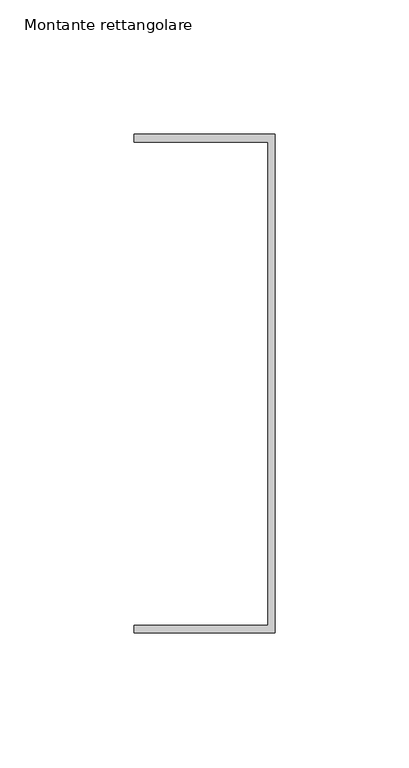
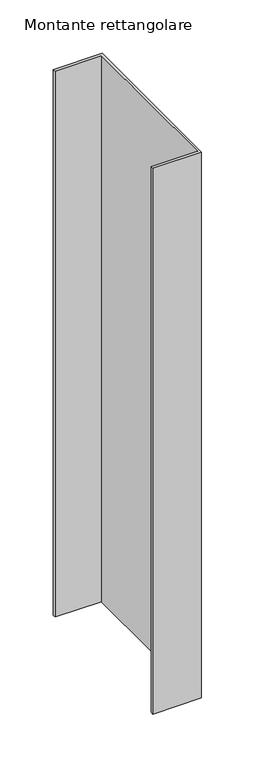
"""IFC4 building model written with IfcOpenShell, lengths in millimetres: member geometry, Montante rettangolare : Verde Profilo's RaceWaterDrainFloor."""

from ifc_helpers import new_model, si_unit, frame, origin, place, context, project, spatial, polyline, outline, extrude, source, transform, mapped, element, save


def montante_rettangolare_288d97b3(model_context):
    return source(origin(), model_context, "Body", "SweptSolid", [
        extrude(outline(polyline([(0.0, -186.0), (-52.4801246, -186.0), (-52.4801246, -183.0236719), (-2.4801246, -183.0236719), (-2.4801246, -2.9763281), (-52.4801246, -2.9763281), (-52.4801246, 0.0), (0.0, 0.0), (0.0, -186.0)])), frame((0.0, 0.0, -623.7595941), z_axis=(0.0, 0.0, 1.0), x_axis=(1.0, 0.0, 0.0)), (0.0, 0.0, 1.0), 623.7595941),
    ])


if __name__ == "__main__":
    model = new_model("IFC4")
    model_context = context("Model", 3, world=origin())
    ifc_project = project(units=[si_unit("LENGTHUNIT", "METRE", prefix="MILLI")], contexts=[model_context])
    site = spatial("IfcSite", under=ifc_project)
    building = spatial("IfcBuilding", under=site)
    placement = place(None, origin())
    montante_rettangolare_shape = montante_rettangolare_288d97b3(model_context)
    element("IfcMember", 1, ObjectType="Montante rettangolare : Verde Profilo's RaceWaterDrainFloor", at=placement, inside=building, context=model_context, shape_type="MappedRepresentation", body=[
        mapped(montante_rettangolare_shape, transform((0.0, 0.0, 0.0), x_axis=(1.0, 0.0, 0.0), y_axis=(0.0, 1.0, 0.0), z_axis=(0.0, 0.0, 1.0))),
    ])
    save(model, "model.ifc")
